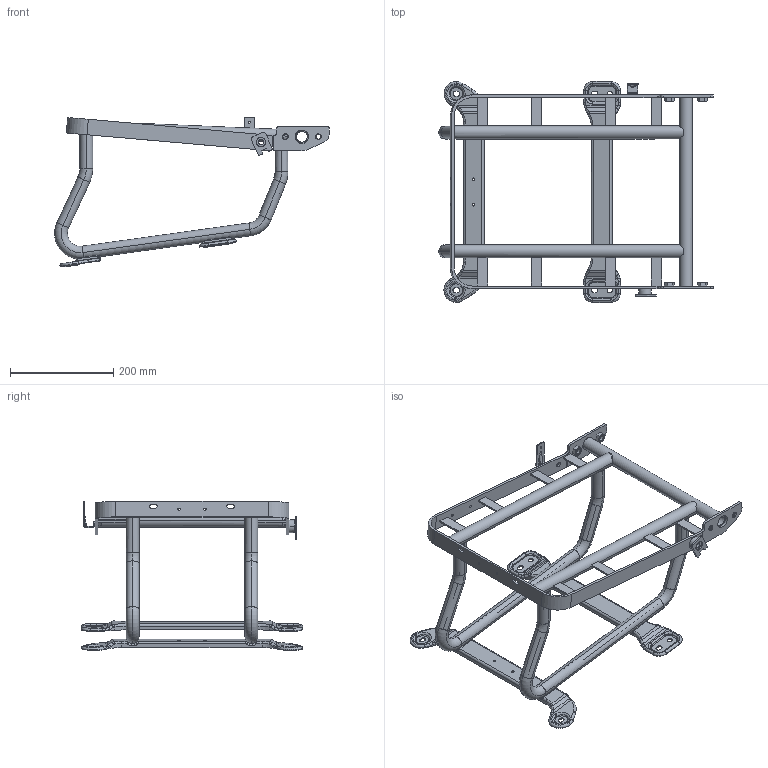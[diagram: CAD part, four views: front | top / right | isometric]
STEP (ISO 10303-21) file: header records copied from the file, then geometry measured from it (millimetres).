
FILE_DESCRIPTION(('CATIA V5 STEP Exchange'),'2;1');
FILE_NAME('C:\Users\Administrator\Desktop\SHT0014466_A.stp','2022-04-24T03:21:53+00:00',('none'),('none'),'CATIA Version 5 Release 20 GA (IN-10)','CATIA V5 STEP AP214','none');
FILE_SCHEMA(('AUTOMOTIVE_DESIGN { 1 0 10303 214 1 1 1 1 }'));
Length unit declared in the file: millimetre
Products named in the file (15): SHT0014466; SHT0014467; SHT0014468; SHT0014469; RC02-6802404-2; RC02 6802 404; Q370C10; RC02-6802404-3; SQXM3000-6901106; SQXM3000-6901101; H4681010216A0; SQXM3000-6901107; SQXM3000-6901105; RC02 6802 403; M4-6907009
Assembly tree (27 placements, depth 3):
  SHT0014466
    SHT0014467
    SHT0014468
    SHT0014469  x2
    RC02-6802404-2
      RC02 6802 404
      Q370C10  x2
    RC02-6802404-3
      RC02 6802 404
      Q370C10  x2
    SQXM3000-6901106
    SQXM3000-6901101
    H4681010216A0
    SQXM3000-6901107
    SQXM3000-6901105  x2
    RC02 6802 403  x8
    M4-6907009
Bounding box: 531.85 x 428.07 x 288.89 mm (x, y, z)
Volume: 784089.3 mm3; surface area: 651033.5 mm2
Topology: 25 solids, 25 shells, 1181 faces, 2926 edges, 1817 vertices
Faces by surface type: cylinder 537, plane 289, torus 200, bspline 72, revolution 56, cone 27
Entity records: 36957 total; most frequent: CARTESIAN_POINT 14522, ORIENTED_EDGE 4582, DIRECTION 3268, EDGE_CURVE 2291, AXIS2_PLACEMENT_3D 1624, VERTEX_POINT 1408, EDGE_LOOP 979, ADVANCED_FACE 917
